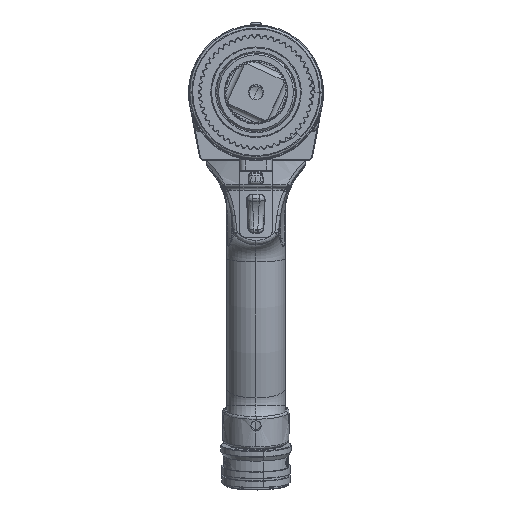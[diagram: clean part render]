
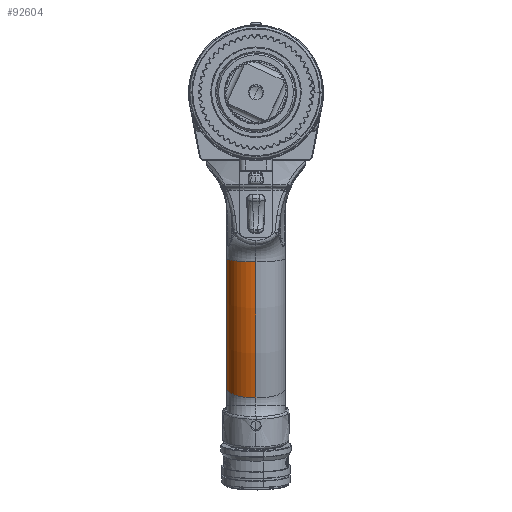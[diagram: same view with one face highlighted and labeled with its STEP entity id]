
A CAD part, top view. The second image highlights one B-rep face of the part: STEP entity #92604.
In plain terms, the highlighted toroidal (fillet/blend) face has major radius 363.555 mm and minor radius 16.662 mm.
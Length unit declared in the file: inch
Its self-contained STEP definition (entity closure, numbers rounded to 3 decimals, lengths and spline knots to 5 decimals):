
#2384 = EDGE_CURVE ( 'NONE', #140410, #104577, #56006, .T. ) ;
#2840 = CARTESIAN_POINT ( 'NONE',  ( -0.656, -6.68654, -2.07522 ) ) ;
#8137 = EDGE_CURVE ( 'NONE', #97611, #104719, #101461, .T. ) ;
#8176 = DIRECTION ( 'NONE',  ( 0., -0.12, 0.993 ) ) ;
#19111 = ORIENTED_EDGE ( 'NONE', *, *, #96870, .T. ) ;
#20678 = ORIENTED_EDGE ( 'NONE', *, *, #2384, .T. ) ;
#24289 = DIRECTION ( 'NONE',  ( -1., 0., 0. ) ) ;
#25014 = CARTESIAN_POINT ( 'NONE',  ( -0.656, -2.019, -15.606 ) ) ;
#26103 = EDGE_LOOP ( 'NONE', ( #20678, #56563, #127923, #19111 ) ) ;
#36520 = DIRECTION ( 'NONE',  ( 0., 0., -1. ) ) ;
#45654 = CIRCLE ( 'NONE', #86729, 14.31321 ) ;
#52581 = DIRECTION ( 'NONE',  ( 0., -0.945, -0.326 ) ) ;
#56006 = CIRCLE ( 'NONE', #75768, 0.656 ) ;
#56563 = ORIENTED_EDGE ( 'NONE', *, *, #60181, .F. ) ;
#57516 = DIRECTION ( 'NONE',  ( 0., 0., -1. ) ) ;
#59758 = CARTESIAN_POINT ( 'NONE',  ( 0., -3.82235, -0.74582 ) ) ;
#60181 = EDGE_CURVE ( 'NONE', #104719, #104577, #45654, .T. ) ;
#61404 = AXIS2_PLACEMENT_3D ( 'NONE', #92692, #24289, #104117 ) ;
#68465 = CARTESIAN_POINT ( 'NONE',  ( 0., -2.019, -15.606 ) ) ;
#75768 = AXIS2_PLACEMENT_3D ( 'NONE', #144786, #76585, #8176 ) ;
#76585 = DIRECTION ( 'NONE',  ( 0., -0.993, -0.12 ) ) ;
#81096 = AXIS2_PLACEMENT_3D ( 'NONE', #68465, #125804, #57516 ) ;
#84811 = FACE_OUTER_BOUND ( 'NONE', #26103, .T. ) ;
#86729 = AXIS2_PLACEMENT_3D ( 'NONE', #25014, #104864, #36520 ) ;
#92604 = ADVANCED_FACE ( 'NONE', ( #84811 ), #131070, .T. ) ;
#92692 = CARTESIAN_POINT ( 'NONE',  ( 0., -2.019, -15.606 ) ) ;
#93713 = CARTESIAN_POINT ( 'NONE',  ( -0.656, -3.74333, -1.39704 ) ) ;
#96870 = EDGE_CURVE ( 'NONE', #97611, #140410, #124094, .T. ) ;
#97611 = VERTEX_POINT ( 'NONE', #119442 ) ;
#101461 = CIRCLE ( 'NONE', #118331, 0.656 ) ;
#104117 = DIRECTION ( 'NONE',  ( 0., 0., -1. ) ) ;
#104577 = VERTEX_POINT ( 'NONE', #93713 ) ;
#104719 = VERTEX_POINT ( 'NONE', #2840 ) ;
#104864 = DIRECTION ( 'NONE',  ( -1., 0., 0. ) ) ;
#118331 = AXIS2_PLACEMENT_3D ( 'NONE', #120909, #52581, #132301 ) ;
#119442 = CARTESIAN_POINT ( 'NONE',  ( 0., -6.90046, -1.45508 ) ) ;
#120909 = CARTESIAN_POINT ( 'NONE',  ( 0., -6.68654, -2.07522 ) ) ;
#124094 = CIRCLE ( 'NONE', #61404, 14.96921 ) ;
#125804 = DIRECTION ( 'NONE',  ( 1., 0., 0. ) ) ;
#127923 = ORIENTED_EDGE ( 'NONE', *, *, #8137, .F. ) ;
#131070 = TOROIDAL_SURFACE ( 'NONE', #81096, 14.31321, 0.656 ) ;
#132301 = DIRECTION ( 'NONE',  ( 0., -0.326, 0.945 ) ) ;
#140410 = VERTEX_POINT ( 'NONE', #59758 ) ;
#144786 = CARTESIAN_POINT ( 'NONE',  ( 0., -3.74333, -1.39704 ) ) ;
